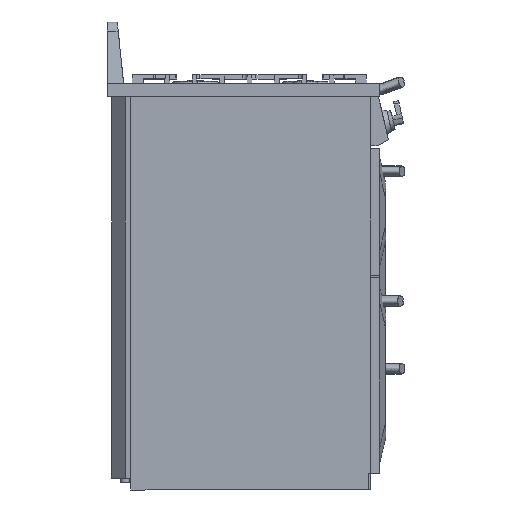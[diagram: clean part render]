
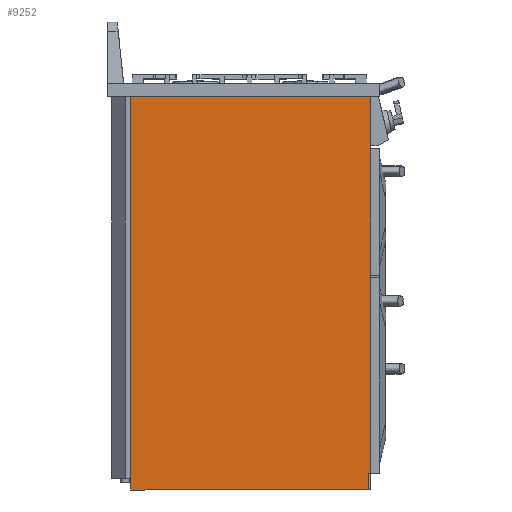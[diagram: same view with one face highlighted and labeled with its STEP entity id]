
A CAD part, left-side view. The second image highlights one B-rep face of the part: STEP entity #9252.
In plain terms, the highlighted planar face has unit normal (-1, 0, 0).
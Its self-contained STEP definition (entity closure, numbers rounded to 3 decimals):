
#2095=PLANE('',#35666);
#3483=LINE('',#50289,#6247);
#3489=LINE('',#50302,#6253);
#3490=LINE('',#50304,#6254);
#3497=LINE('',#50320,#6261);
#3498=LINE('',#50322,#6262);
#3499=LINE('',#50323,#6263);
#6247=VECTOR('',#38133,1.);
#6253=VECTOR('',#38141,1.);
#6254=VECTOR('',#38144,1.);
#6261=VECTOR('',#38155,1.);
#6262=VECTOR('',#38156,1.);
#6263=VECTOR('',#38157,1.);
#9252=ADVANCED_FACE('',(#11357),#2095,.F.);
#11357=FACE_OUTER_BOUND('',#13163,.T.);
#13163=EDGE_LOOP('',(#16729,#16730,#16731,#16732,#16733,#16734));
#16729=ORIENTED_EDGE('',*,*,#29393,.F.);
#16730=ORIENTED_EDGE('',*,*,#29394,.T.);
#16731=ORIENTED_EDGE('',*,*,#29384,.F.);
#16732=ORIENTED_EDGE('',*,*,#29395,.F.);
#16733=ORIENTED_EDGE('',*,*,#29385,.F.);
#16734=ORIENTED_EDGE('',*,*,#29378,.F.);
#25871=VERTEX_POINT('',#50287);
#25873=VERTEX_POINT('',#50290);
#25876=VERTEX_POINT('',#50297);
#25878=VERTEX_POINT('',#50301);
#25879=VERTEX_POINT('',#50305);
#25886=VERTEX_POINT('',#50321);
#29378=EDGE_CURVE('',#25871,#25873,#3483,.T.);
#29384=EDGE_CURVE('',#25878,#25876,#3489,.T.);
#29385=EDGE_CURVE('',#25873,#25879,#3490,.T.);
#29393=EDGE_CURVE('',#25886,#25871,#3497,.T.);
#29394=EDGE_CURVE('',#25886,#25876,#3498,.T.);
#29395=EDGE_CURVE('',#25879,#25878,#3499,.T.);
#35666=AXIS2_PLACEMENT_3D('',#50324,#38158,#38159);
#38133=DIRECTION('',(0.,1.,0.));
#38141=DIRECTION('',(0.,0.,-1.));
#38144=DIRECTION('',(0.,0.,1.));
#38155=DIRECTION('',(0.,0.,-1.));
#38156=DIRECTION('',(0.,-1.,0.));
#38157=DIRECTION('',(0.,-1.,0.));
#38158=DIRECTION('',(1.,0.,0.));
#38159=DIRECTION('',(0.,1.,0.));
#50287=CARTESIAN_POINT('',(-266.5,264.035,-369.745));
#50289=CARTESIAN_POINT('',(-266.5,259.035,-369.745));
#50290=CARTESIAN_POINT('',(-266.5,784.035,-369.745));
#50297=CARTESIAN_POINT('',(-266.5,259.035,-332.995));
#50301=CARTESIAN_POINT('',(-266.5,259.035,491.055));
#50302=CARTESIAN_POINT('',(-266.5,259.035,491.055));
#50304=CARTESIAN_POINT('',(-266.5,784.035,-369.745));
#50305=CARTESIAN_POINT('',(-266.5,784.035,491.055));
#50320=CARTESIAN_POINT('',(-266.5,264.035,-332.995));
#50321=CARTESIAN_POINT('',(-266.5,264.035,-332.995));
#50322=CARTESIAN_POINT('',(-266.5,264.035,-332.995));
#50323=CARTESIAN_POINT('',(-266.5,826.035,491.055));
#50324=CARTESIAN_POINT('',(-266.5,259.035,-369.745));
